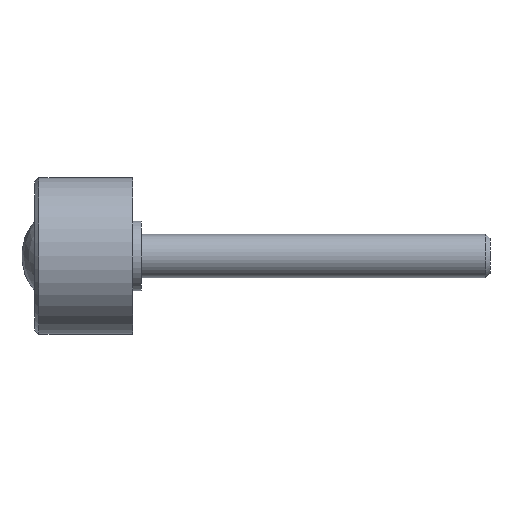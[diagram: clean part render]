
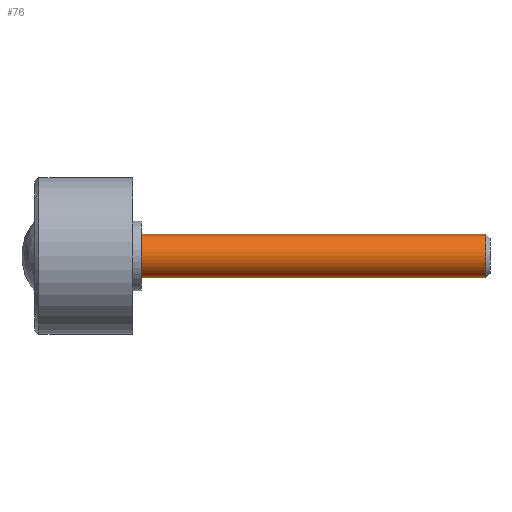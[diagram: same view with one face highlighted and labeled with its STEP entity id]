
A CAD part, left-side view. The second image highlights one B-rep face of the part: STEP entity #76.
In plain terms, the highlighted cylindrical face has radius 5 mm (diameter 10 mm), a full revolution.
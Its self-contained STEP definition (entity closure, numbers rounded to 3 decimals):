
#76 = ADVANCED_FACE( '', ( #93, #94 ), #95, .T. );
#93 = FACE_OUTER_BOUND( '', #134, .T. );
#94 = FACE_OUTER_BOUND( '', #135, .T. );
#95 = CYLINDRICAL_SURFACE( '', #136, 5. );
#134 = EDGE_LOOP( '', ( #177 ) );
#135 = EDGE_LOOP( '', ( #178 ) );
#136 = AXIS2_PLACEMENT_3D( '', #179, #180, #181 );
#177 = ORIENTED_EDGE( '', *, *, #242, .F. );
#178 = ORIENTED_EDGE( '', *, *, #243, .T. );
#179 = CARTESIAN_POINT( '', ( 0., -80., 0. ) );
#180 = DIRECTION( '', ( 0., 1., 0. ) );
#181 = DIRECTION( '', ( 0., 0., -1. ) );
#242 = EDGE_CURVE( '', #257, #257, #258, .T. );
#243 = EDGE_CURVE( '', #259, #259, #260, .T. );
#257 = VERTEX_POINT( '', #283 );
#258 = CIRCLE( '', #284, 5. );
#259 = VERTEX_POINT( '', #285 );
#260 = CIRCLE( '', #286, 5. );
#283 = CARTESIAN_POINT( '', ( 0., -79.08, -5. ) );
#284 = AXIS2_PLACEMENT_3D( '', #383, #384, #385 );
#285 = CARTESIAN_POINT( '', ( 0., 0., -5. ) );
#286 = AXIS2_PLACEMENT_3D( '', #386, #387, #388 );
#383 = CARTESIAN_POINT( '', ( 0., -79.08, 0. ) );
#384 = DIRECTION( '', ( 0., -1., 0. ) );
#385 = DIRECTION( '', ( 0., 0., -1. ) );
#386 = CARTESIAN_POINT( '', ( 0., 0., 0. ) );
#387 = DIRECTION( '', ( 0., -1., 0. ) );
#388 = DIRECTION( '', ( 0., 0., -1. ) );
